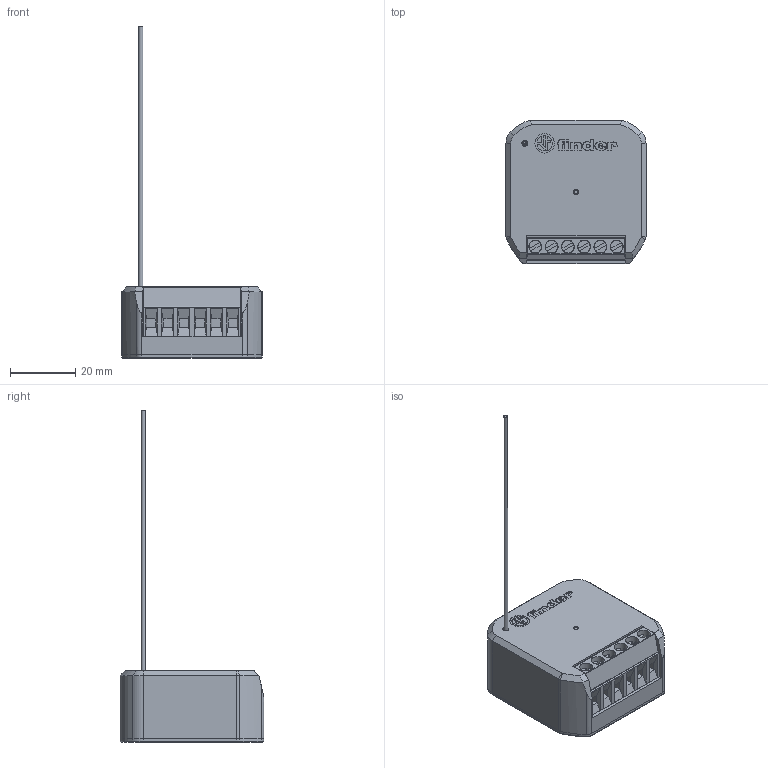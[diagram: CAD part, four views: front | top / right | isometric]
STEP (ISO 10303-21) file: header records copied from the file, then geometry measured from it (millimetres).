
FILE_DESCRIPTION(/* description */ ('Unknown'),/* implementation_level */ '2;1');
FILE_NAME(/* name */ '1321_S000',/* time_stamp */ '2021-09-02T11:40:36+02:00',/* author */ ('Unknown'),/* organization */ ('Unknown'),/* preprocessor_version */ 'ST-DEVELOPER v16.7',/* originating_system */ 'DEX',/* authorisation */ $);
FILE_SCHEMA (('AUTOMOTIVE_DESIGN {1 0 10303 214 3 1 1}'));
Length unit declared in the file: millimetre
Products named in the file (1): 1321_S000
Bounding box: 43 x 44.1 x 101.9 mm (x, y, z)
Surface area: 11268.2 mm2 (no closed solid volume)
Topology: 0 solids, 13 shells, 436 faces, 1324 edges, 911 vertices
Faces by surface type: plane 301, cylinder 93, bspline 16, cone 15, torus 11
Full cylindrical faces by diameter (mm): 0.252 x1, 0.438 x1, 0.8 x1, 1.3 x1, 1.5 x1, 1.8 x1, 3.8 x4, 5.962 x1
Entity records: 15574 total; most frequent: CARTESIAN_POINT 3703, DIRECTION 2374, ORIENTED_EDGE 2310, EDGE_CURVE 1292, LINE 980, VECTOR 980, VERTEX_POINT 898, AXIS2_PLACEMENT_3D 697
